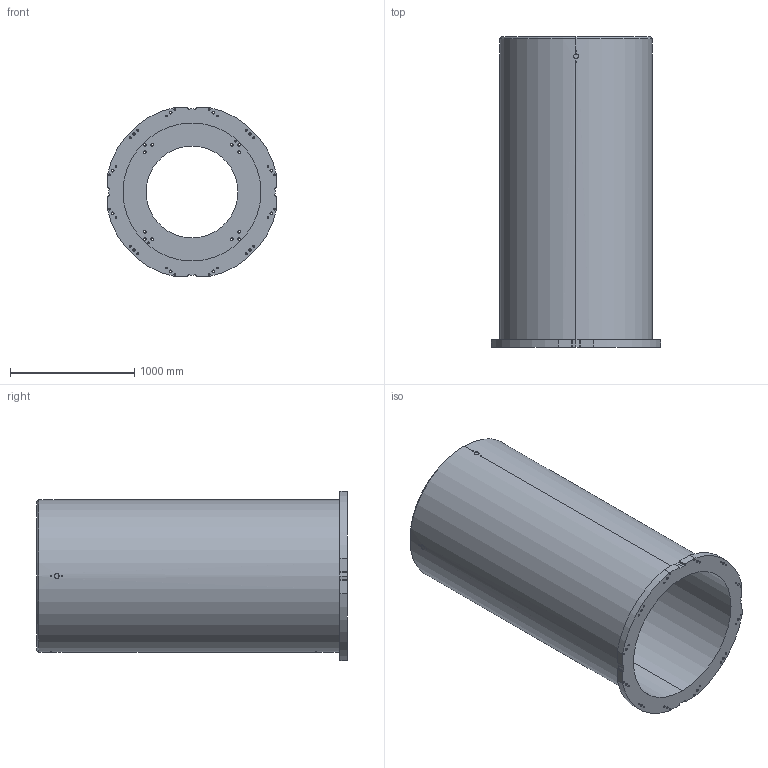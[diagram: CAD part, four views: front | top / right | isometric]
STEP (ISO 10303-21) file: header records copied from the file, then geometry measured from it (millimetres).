
FILE_DESCRIPTION (( 'STEP AP214' ), '1' );
FILE_NAME ('T-2500.STEP', '2024-01-24T12:57:20', ( '' ), ( '' ), 'SwSTEP 2.0', 'SolidWorks 2022', '' );
FILE_SCHEMA (( 'AUTOMOTIVE_DESIGN' ));
Length unit declared in the file: millimetre
Products named in the file (1): T-2500
Bounding box: 1360 x 2500 x 1360 mm (x, y, z)
Volume: 599040420.5 mm3; surface area: 20591351 mm2
Topology: 1 solids, 1 shells, 235 faces, 661 edges, 440 vertices
Faces by surface type: cylinder 181, plane 28, bspline 24, cone 2
Entity records: 13291 total; most frequent: CARTESIAN_POINT 5980, ORIENTED_EDGE 1322, DIRECTION 1177, EDGE_CURVE 661, AXIS2_PLACEMENT_3D 466, VERTEX_POINT 440, EDGE_LOOP 349, CIRCLE 254
